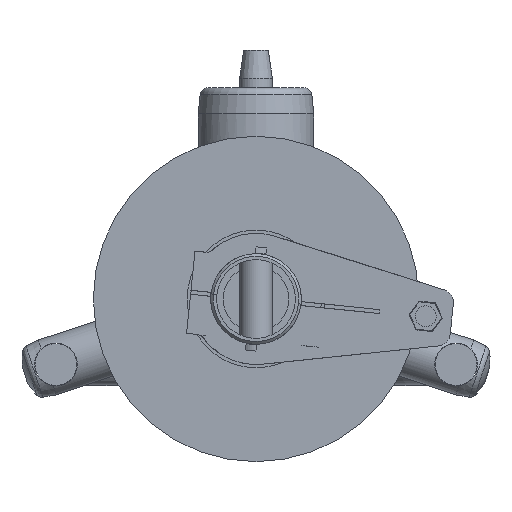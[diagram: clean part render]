
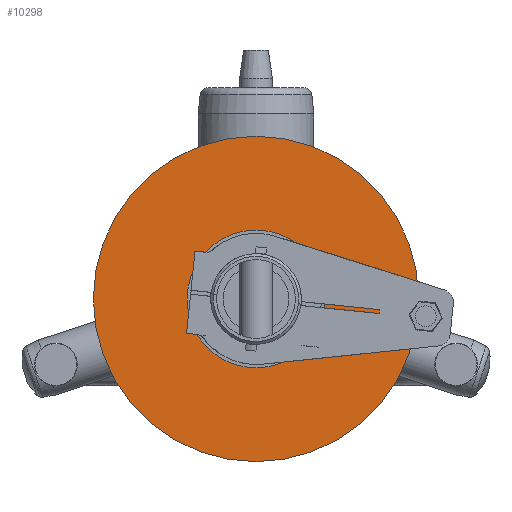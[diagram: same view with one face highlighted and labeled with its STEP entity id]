
A CAD part, front view. The second image highlights one B-rep face of the part: STEP entity #10298.
In plain terms, the highlighted planar face has unit normal (0, -1, 0).
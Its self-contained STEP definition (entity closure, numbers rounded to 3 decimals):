
#643 = AXIS2_PLACEMENT_3D ( 'NONE', #17354, #7341, #19050 ) ;
#1820 = CARTESIAN_POINT ( 'NONE',  ( 0., 0., 0. ) ) ;
#2059 = AXIS2_PLACEMENT_3D ( 'NONE', #18124, #18195, #8169 ) ;
#2260 = EDGE_LOOP ( 'NONE', ( #10491, #12589 ) ) ;
#3429 = CARTESIAN_POINT ( 'NONE',  ( 0., 0., 0. ) ) ;
#3475 = DIRECTION ( 'NONE',  ( 0., 0., -1. ) ) ;
#3681 = CIRCLE ( 'NONE', #8034, 52.5 ) ;
#4245 = CARTESIAN_POINT ( 'NONE',  ( 0., 0., -124. ) ) ;
#4782 = EDGE_CURVE ( 'NONE', #21555, #12673, #17430, .T. ) ;
#5103 = DIRECTION ( 'NONE',  ( 0., 0., -1. ) ) ;
#5368 = CIRCLE ( 'NONE', #643, 52.5 ) ;
#7341 = DIRECTION ( 'NONE',  ( 0., -1., 0. ) ) ;
#7437 = VERTEX_POINT ( 'NONE', #12238 ) ;
#7803 = FACE_BOUND ( 'NONE', #2260, .T. ) ;
#8034 = AXIS2_PLACEMENT_3D ( 'NONE', #3429, #15148, #5103 ) ;
#8169 = DIRECTION ( 'NONE',  ( 0., 0., -1. ) ) ;
#8687 = EDGE_CURVE ( 'NONE', #7437, #11384, #3681, .T. ) ;
#9723 = CARTESIAN_POINT ( 'NONE',  ( 0., 0., 0. ) ) ;
#9922 = AXIS2_PLACEMENT_3D ( 'NONE', #1820, #13529, #3475 ) ;
#10298 = ADVANCED_FACE ( 'NONE', ( #21152, #7803 ), #14844, .T. ) ;
#10406 = EDGE_CURVE ( 'NONE', #12673, #21555, #14609, .T. ) ;
#10491 = ORIENTED_EDGE ( 'NONE', *, *, #8687, .F. ) ;
#11384 = VERTEX_POINT ( 'NONE', #11458 ) ;
#11417 = DIRECTION ( 'NONE',  ( 0., 0., -1. ) ) ;
#11458 = CARTESIAN_POINT ( 'NONE',  ( 0., 0., 52.5 ) ) ;
#12238 = CARTESIAN_POINT ( 'NONE',  ( 0., 0., -52.5 ) ) ;
#12589 = ORIENTED_EDGE ( 'NONE', *, *, #20866, .F. ) ;
#12673 = VERTEX_POINT ( 'NONE', #15886 ) ;
#13529 = DIRECTION ( 'NONE',  ( 0., -1., 0. ) ) ;
#13988 = AXIS2_PLACEMENT_3D ( 'NONE', #9723, #21421, #11417 ) ;
#14609 = CIRCLE ( 'NONE', #9922, 124. ) ;
#14844 = PLANE ( 'NONE',  #2059 ) ;
#15148 = DIRECTION ( 'NONE',  ( 0., -1., 0. ) ) ;
#15886 = CARTESIAN_POINT ( 'NONE',  ( 0., 0., 124. ) ) ;
#16629 = ORIENTED_EDGE ( 'NONE', *, *, #10406, .T. ) ;
#17354 = CARTESIAN_POINT ( 'NONE',  ( 0., 0., 0. ) ) ;
#17430 = CIRCLE ( 'NONE', #13988, 124. ) ;
#18124 = CARTESIAN_POINT ( 'NONE',  ( 0., 0., -52.5 ) ) ;
#18195 = DIRECTION ( 'NONE',  ( 0., -1., 0. ) ) ;
#18282 = ORIENTED_EDGE ( 'NONE', *, *, #4782, .T. ) ;
#19015 = EDGE_LOOP ( 'NONE', ( #18282, #16629 ) ) ;
#19050 = DIRECTION ( 'NONE',  ( 0., 0., -1. ) ) ;
#20866 = EDGE_CURVE ( 'NONE', #11384, #7437, #5368, .T. ) ;
#21152 = FACE_OUTER_BOUND ( 'NONE', #19015, .T. ) ;
#21421 = DIRECTION ( 'NONE',  ( 0., -1., 0. ) ) ;
#21555 = VERTEX_POINT ( 'NONE', #4245 ) ;
